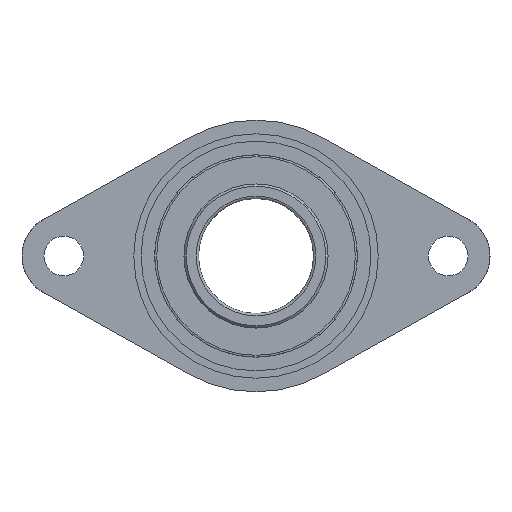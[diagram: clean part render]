
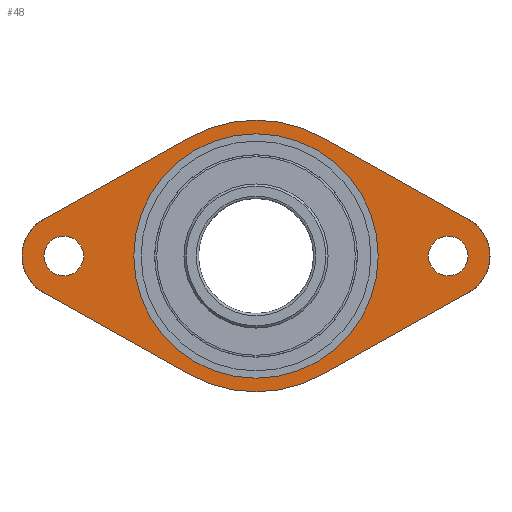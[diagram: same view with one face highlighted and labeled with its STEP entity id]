
A CAD part, left-side view. The second image highlights one B-rep face of the part: STEP entity #48.
In plain terms, the highlighted planar face has unit normal (-1, 0, 0).
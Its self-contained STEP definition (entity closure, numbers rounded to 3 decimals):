
#13 = DIRECTION ( 'NONE',  ( 0., 0., -1. ) ) ;
#39 = DIRECTION ( 'NONE',  ( 0., 0.872, 0.489 ) ) ;
#48 = ADVANCED_FACE ( 'E454', ( #73, #393, #979, #2500 ), #850, .F. ) ;
#51 = VECTOR ( 'NONE', #39, 1000. ) ;
#58 = CARTESIAN_POINT ( 'NONE',  ( -25., 101.783, 17.444 ) ) ;
#62 = ORIENTED_EDGE ( 'NONE', *, *, #1208, .T. ) ;
#73 = FACE_BOUND ( 'NONE', #665, .T. ) ;
#81 = CARTESIAN_POINT ( 'NONE',  ( -25., 0., 0. ) ) ;
#139 = CIRCLE ( 'NONE', #1350, 9.5 ) ;
#159 = LINE ( 'NONE', #1522, #683 ) ;
#181 = DIRECTION ( 'NONE',  ( 1., 0., 0. ) ) ;
#188 = ORIENTED_EDGE ( 'NONE', *, *, #2299, .F. ) ;
#222 = CARTESIAN_POINT ( 'NONE',  ( -25., 92., 0. ) ) ;
#227 = DIRECTION ( 'NONE',  ( 1., 0., 0. ) ) ;
#232 = DIRECTION ( 'NONE',  ( 0., 0., -1. ) ) ;
#307 = LINE ( 'NONE', #1876, #51 ) ;
#322 = CIRCLE ( 'NONE', #1403, 9.5 ) ;
#343 = CARTESIAN_POINT ( 'NONE',  ( -25., -92., -9.5 ) ) ;
#347 = CARTESIAN_POINT ( 'NONE',  ( -25., 101.783, -17.444 ) ) ;
#350 = CARTESIAN_POINT ( 'NONE',  ( -25., 92., -9.5 ) ) ;
#393 = FACE_BOUND ( 'NONE', #1091, .T. ) ;
#417 = DIRECTION ( 'NONE',  ( 0., -0.872, -0.489 ) ) ;
#425 = CARTESIAN_POINT ( 'NONE',  ( -25., 0., -58.5 ) ) ;
#511 = DIRECTION ( 'NONE',  ( 1., 0., 0. ) ) ;
#515 = ORIENTED_EDGE ( 'NONE', *, *, #2378, .F. ) ;
#516 = CARTESIAN_POINT ( 'NONE',  ( -25., 0., 0. ) ) ;
#524 = DIRECTION ( 'NONE',  ( 0., 0., -1. ) ) ;
#570 = CIRCLE ( 'NONE', #1981, 58.5 ) ;
#637 = ORIENTED_EDGE ( 'NONE', *, *, #1528, .T. ) ;
#647 = VERTEX_POINT ( 'NONE', #425 ) ;
#665 = EDGE_LOOP ( 'NONE', ( #2439 ) ) ;
#671 = EDGE_LOOP ( 'NONE', ( #1115 ) ) ;
#675 = EDGE_LOOP ( 'NONE', ( #2395, #796, #637, #515, #188, #2671, #62, #818 ) ) ;
#683 = VECTOR ( 'NONE', #1442, 1000. ) ;
#796 = ORIENTED_EDGE ( 'NONE', *, *, #908, .F. ) ;
#818 = ORIENTED_EDGE ( 'NONE', *, *, #1733, .F. ) ;
#829 = DIRECTION ( 'NONE',  ( 1., 0., 0. ) ) ;
#831 = CARTESIAN_POINT ( 'NONE',  ( -25., -31.793, 56.694 ) ) ;
#844 = CARTESIAN_POINT ( 'NONE',  ( -25., 0., 0. ) ) ;
#850 = PLANE ( 'NONE',  #2384 ) ;
#853 = DIRECTION ( 'NONE',  ( 0., 0., -1. ) ) ;
#860 = CIRCLE ( 'NONE', #1473, 65. ) ;
#878 = CIRCLE ( 'NONE', #2058, 20. ) ;
#908 = EDGE_CURVE ( 'E246', #2176, #945, #878, .T. ) ;
#945 = VERTEX_POINT ( 'NONE', #2649 ) ;
#966 = VERTEX_POINT ( 'NONE', #2690 ) ;
#974 = EDGE_CURVE ( 'E382', #2131, #1659, #2633, .T. ) ;
#979 = FACE_BOUND ( 'NONE', #671, .T. ) ;
#1085 = CARTESIAN_POINT ( 'NONE',  ( -25., -101.783, 17.444 ) ) ;
#1091 = EDGE_LOOP ( 'NONE', ( #1412 ) ) ;
#1115 = ORIENTED_EDGE ( 'NONE', *, *, #2419, .T. ) ;
#1208 = EDGE_CURVE ( 'E376', #2131, #2424, #2607, .T. ) ;
#1264 = EDGE_CURVE ( 'NONE', #647, #647, #570, .T. ) ;
#1302 = CARTESIAN_POINT ( 'NONE',  ( -25., 101.783, -17.444 ) ) ;
#1350 = AXIS2_PLACEMENT_3D ( 'NONE', #1767, #1764, #1757 ) ;
#1403 = AXIS2_PLACEMENT_3D ( 'NONE', #1908, #1906, #1902 ) ;
#1412 = ORIENTED_EDGE ( 'NONE', *, *, #2442, .T. ) ;
#1442 = DIRECTION ( 'NONE',  ( 0., 0.872, -0.489 ) ) ;
#1473 = AXIS2_PLACEMENT_3D ( 'NONE', #1997, #1993, #1990 ) ;
#1522 = CARTESIAN_POINT ( 'NONE',  ( -25., -101.783, -17.444 ) ) ;
#1528 = EDGE_CURVE ( 'E240', #2176, #2826, #307, .T. ) ;
#1659 = VERTEX_POINT ( 'NONE', #58 ) ;
#1733 = EDGE_CURVE ( 'E350', #966, #2424, #2654, .T. ) ;
#1757 = DIRECTION ( 'NONE',  ( 0., 0., -1. ) ) ;
#1764 = DIRECTION ( 'NONE',  ( 1., 0., 0. ) ) ;
#1767 = CARTESIAN_POINT ( 'NONE',  ( -25., -92., 0. ) ) ;
#1853 = CARTESIAN_POINT ( 'NONE',  ( -25., 31.793, -56.694 ) ) ;
#1876 = CARTESIAN_POINT ( 'NONE',  ( -25., -101.783, 17.444 ) ) ;
#1879 = VECTOR ( 'NONE', #2263, 1000. ) ;
#1883 = AXIS2_PLACEMENT_3D ( 'NONE', #81, #181, #13 ) ;
#1902 = DIRECTION ( 'NONE',  ( 0., 0., -1. ) ) ;
#1906 = DIRECTION ( 'NONE',  ( 1., 0., 0. ) ) ;
#1908 = CARTESIAN_POINT ( 'NONE',  ( -25., 92., 0. ) ) ;
#1956 = EDGE_CURVE ( 'E329', #945, #966, #159, .T. ) ;
#1981 = AXIS2_PLACEMENT_3D ( 'NONE', #516, #511, #524 ) ;
#1990 = DIRECTION ( 'NONE',  ( 0., 0., -1. ) ) ;
#1993 = DIRECTION ( 'NONE',  ( 1., 0., 0. ) ) ;
#1997 = CARTESIAN_POINT ( 'NONE',  ( -25., 0., 0. ) ) ;
#2047 = AXIS2_PLACEMENT_3D ( 'NONE', #222, #227, #232 ) ;
#2058 = AXIS2_PLACEMENT_3D ( 'NONE', #2604, #2608, #2611 ) ;
#2121 = LINE ( 'NONE', #2291, #1879 ) ;
#2131 = VERTEX_POINT ( 'NONE', #1302 ) ;
#2176 = VERTEX_POINT ( 'NONE', #1085 ) ;
#2263 = DIRECTION ( 'NONE',  ( 0., -0.872, 0.489 ) ) ;
#2284 = CARTESIAN_POINT ( 'NONE',  ( -25., 31.793, 56.694 ) ) ;
#2291 = CARTESIAN_POINT ( 'NONE',  ( -25., 101.783, 17.444 ) ) ;
#2299 = EDGE_CURVE ( 'E193', #1659, #2314, #2121, .T. ) ;
#2314 = VERTEX_POINT ( 'NONE', #2284 ) ;
#2378 = EDGE_CURVE ( 'E214', #2314, #2826, #860, .T. ) ;
#2384 = AXIS2_PLACEMENT_3D ( 'NONE', #844, #829, #853 ) ;
#2395 = ORIENTED_EDGE ( 'NONE', *, *, #1956, .F. ) ;
#2419 = EDGE_CURVE ( 'NONE', #2899, #2899, #322, .T. ) ;
#2424 = VERTEX_POINT ( 'NONE', #1853 ) ;
#2439 = ORIENTED_EDGE ( 'NONE', *, *, #1264, .T. ) ;
#2442 = EDGE_CURVE ( 'NONE', #2929, #2929, #139, .T. ) ;
#2460 = VECTOR ( 'NONE', #417, 1000. ) ;
#2500 = FACE_OUTER_BOUND ( 'NONE', #675, .T. ) ;
#2604 = CARTESIAN_POINT ( 'NONE',  ( -25., -92., 0. ) ) ;
#2607 = LINE ( 'NONE', #347, #2460 ) ;
#2608 = DIRECTION ( 'NONE',  ( 1., 0., 0. ) ) ;
#2611 = DIRECTION ( 'NONE',  ( 0., 0., -1. ) ) ;
#2633 = CIRCLE ( 'NONE', #2047, 20. ) ;
#2649 = CARTESIAN_POINT ( 'NONE',  ( -25., -101.783, -17.444 ) ) ;
#2654 = CIRCLE ( 'NONE', #1883, 65. ) ;
#2671 = ORIENTED_EDGE ( 'NONE', *, *, #974, .F. ) ;
#2690 = CARTESIAN_POINT ( 'NONE',  ( -25., -31.793, -56.694 ) ) ;
#2826 = VERTEX_POINT ( 'NONE', #831 ) ;
#2899 = VERTEX_POINT ( 'NONE', #350 ) ;
#2929 = VERTEX_POINT ( 'NONE', #343 ) ;
